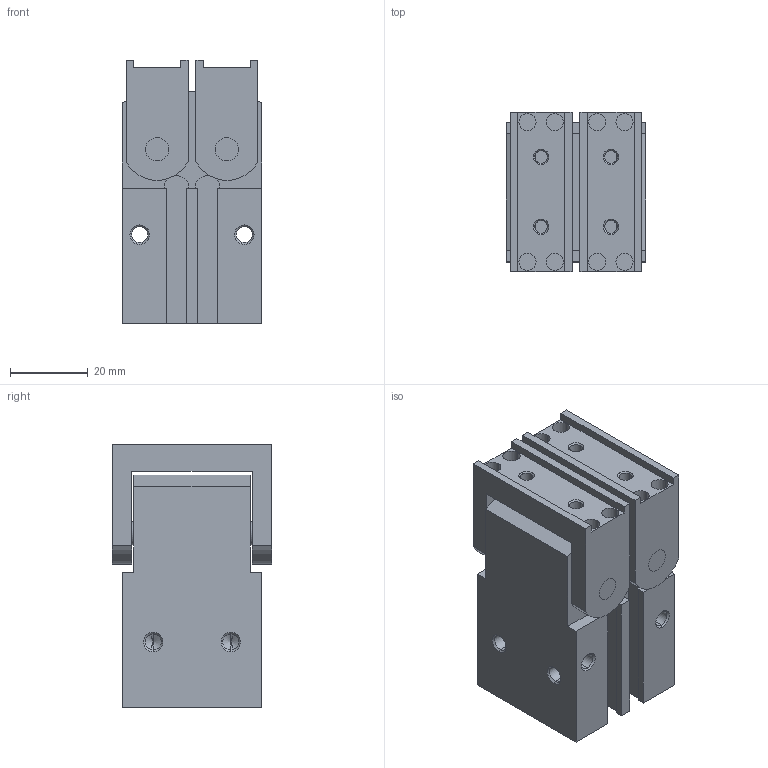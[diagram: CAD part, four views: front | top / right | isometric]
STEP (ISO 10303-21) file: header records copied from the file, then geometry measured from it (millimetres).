
FILE_DESCRIPTION (( 'STEP AP203' ), '1' );
FILE_NAME ('CHW2-20D.STEP', '2020-04-03T10:14:12', ( '' ), ( '' ), 'SwSTEP 2.0', 'SolidWorks 2019', '' );
FILE_SCHEMA (( 'CONFIG_CONTROL_DESIGN' ));
Length unit declared in the file: millimetre
Products named in the file (1): CHW2-20D
Bounding box: 36 x 41 x 68 mm (x, y, z)
Volume: 77756.4 mm3; surface area: 23551.3 mm2
Topology: 3 solids, 3 shells, 217 faces, 526 edges, 326 vertices
Faces by surface type: plane 89, cylinder 80, cone 48
Entity records: 6357 total; most frequent: DIRECTION 1146, CARTESIAN_POINT 1058, ORIENTED_EDGE 1028, EDGE_CURVE 514, AXIS2_PLACEMENT_3D 414, VERTEX_POINT 326, VECTOR 318, LINE 318
